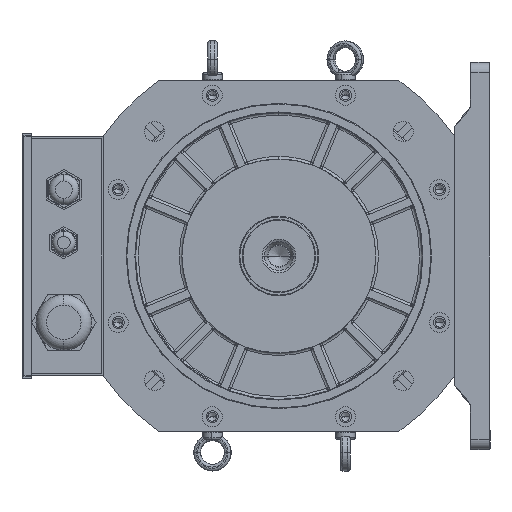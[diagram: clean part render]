
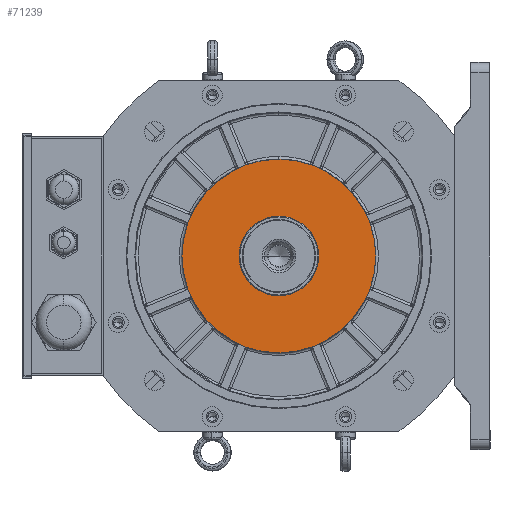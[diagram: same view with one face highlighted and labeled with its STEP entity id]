
A CAD part, left-side view. The second image highlights one B-rep face of the part: STEP entity #71239.
In plain terms, the highlighted planar face has unit normal (-1, 0, 0).
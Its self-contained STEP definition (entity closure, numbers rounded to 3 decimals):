
#1932 = CIRCLE ( 'NONE', #26437, 30. ) ;
#2704 = DIRECTION ( 'NONE',  ( 0., 0., 1. ) ) ;
#3187 = EDGE_CURVE ( 'NONE', #30188, #12237, #1932, .T. ) ;
#4163 = CARTESIAN_POINT ( 'NONE',  ( 6., 0., 0. ) ) ;
#4869 = EDGE_CURVE ( 'NONE', #34579, #47929, #28792, .T. ) ;
#5426 = AXIS2_PLACEMENT_3D ( 'NONE', #55631, #38465, #2704 ) ;
#5453 = CARTESIAN_POINT ( 'NONE',  ( 6., 0., -73. ) ) ;
#5746 = ORIENTED_EDGE ( 'NONE', *, *, #4869, .T. ) ;
#7666 = CARTESIAN_POINT ( 'NONE',  ( 6., 0., -30. ) ) ;
#9966 = AXIS2_PLACEMENT_3D ( 'NONE', #4163, #76273, #34960 ) ;
#11438 = FACE_BOUND ( 'NONE', #40245, .T. ) ;
#12237 = VERTEX_POINT ( 'NONE', #50137 ) ;
#12808 = CIRCLE ( 'NONE', #12832, 73. ) ;
#12832 = AXIS2_PLACEMENT_3D ( 'NONE', #59974, #30073, #17551 ) ;
#16757 = CARTESIAN_POINT ( 'NONE',  ( 6., 0., 0. ) ) ;
#17551 = DIRECTION ( 'NONE',  ( 0., 0., 1. ) ) ;
#22580 = EDGE_LOOP ( 'NONE', ( #68806, #5746 ) ) ;
#26437 = AXIS2_PLACEMENT_3D ( 'NONE', #16757, #64656, #28758 ) ;
#28758 = DIRECTION ( 'NONE',  ( 0., 0., 1. ) ) ;
#28792 = CIRCLE ( 'NONE', #65428, 73. ) ;
#30073 = DIRECTION ( 'NONE',  ( -1., 0., 0. ) ) ;
#30188 = VERTEX_POINT ( 'NONE', #7666 ) ;
#31041 = EDGE_CURVE ( 'NONE', #12237, #30188, #39666, .T. ) ;
#33862 = FACE_OUTER_BOUND ( 'NONE', #22580, .T. ) ;
#34579 = VERTEX_POINT ( 'NONE', #5453 ) ;
#34960 = DIRECTION ( 'NONE',  ( 0., 0., 1. ) ) ;
#36117 = EDGE_CURVE ( 'NONE', #47929, #34579, #12808, .T. ) ;
#38465 = DIRECTION ( 'NONE',  ( -1., 0., 0. ) ) ;
#39666 = CIRCLE ( 'NONE', #9966, 30. ) ;
#40245 = EDGE_LOOP ( 'NONE', ( #71175, #59442 ) ) ;
#47929 = VERTEX_POINT ( 'NONE', #75361 ) ;
#50137 = CARTESIAN_POINT ( 'NONE',  ( 6., 0., 30. ) ) ;
#55631 = CARTESIAN_POINT ( 'NONE',  ( 6., -73., 0. ) ) ;
#58146 = CARTESIAN_POINT ( 'NONE',  ( 6., 0., 0. ) ) ;
#59442 = ORIENTED_EDGE ( 'NONE', *, *, #3187, .F. ) ;
#59974 = CARTESIAN_POINT ( 'NONE',  ( 6., 0., 0. ) ) ;
#64656 = DIRECTION ( 'NONE',  ( -1., 0., 0. ) ) ;
#65175 = DIRECTION ( 'NONE',  ( -1., 0., 0. ) ) ;
#65428 = AXIS2_PLACEMENT_3D ( 'NONE', #58146, #65175, #71167 ) ;
#68806 = ORIENTED_EDGE ( 'NONE', *, *, #36117, .T. ) ;
#71167 = DIRECTION ( 'NONE',  ( 0., 0., 1. ) ) ;
#71175 = ORIENTED_EDGE ( 'NONE', *, *, #31041, .F. ) ;
#71239 = ADVANCED_FACE ( 'NONE', ( #33862, #11438 ), #74327, .T. ) ;
#74327 = PLANE ( 'NONE',  #5426 ) ;
#75361 = CARTESIAN_POINT ( 'NONE',  ( 6., 0., 73. ) ) ;
#76273 = DIRECTION ( 'NONE',  ( -1., 0., 0. ) ) ;
